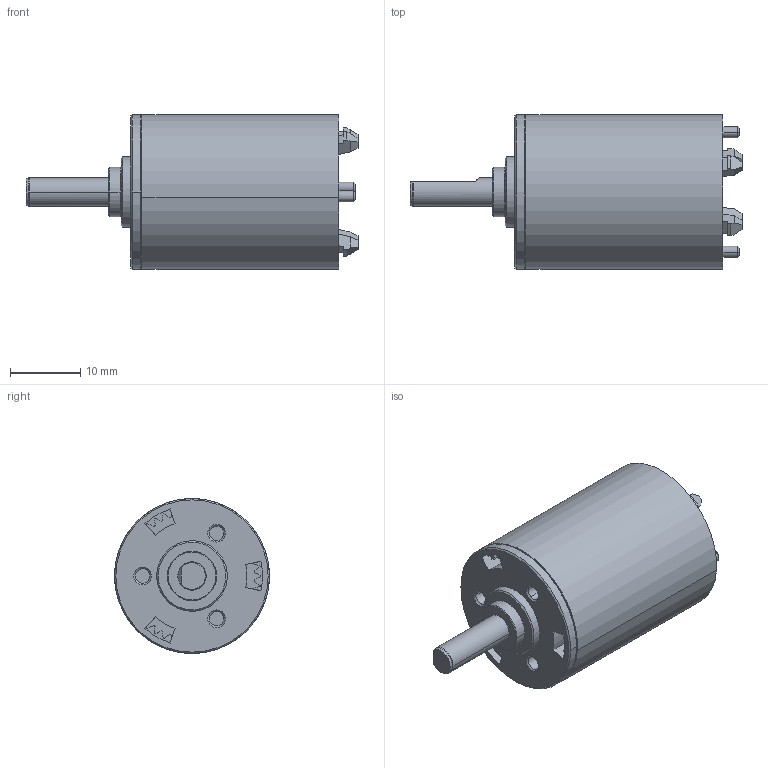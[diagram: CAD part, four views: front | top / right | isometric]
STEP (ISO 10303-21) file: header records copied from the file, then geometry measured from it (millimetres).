
FILE_DESCRIPTION((''),'2;1');
FILE_NAME('GP22L','2016-10-04T',('mmagvisi'),(''),'CREO PARAMETRIC BY PTC INC, 2016050','CREO PARAMETRIC BY PTC INC, 2016050','');
FILE_SCHEMA(('CONFIG_CONTROL_DESIGN'));
Length unit declared in the file: millimetre
Products named in the file (1): GP22L
Bounding box: 47.1 x 22 x 22 mm (x, y, z)
Volume: 11029.6 mm3; surface area: 4120.2 mm2
Topology: 1 solids, 34 shells, 645 faces, 1643 edges, 1082 vertices
Faces by surface type: plane 247, bspline 176, cylinder 136, cone 85, torus 1
Entity records: 27133 total; most frequent: CARTESIAN_POINT 7566, ORIENTED_EDGE 3286, DIRECTION 2532, PRESENTATION_STYLE_ASSIGNMENT 1644, STYLED_ITEM 1644, CURVE_STYLE 1643, EDGE_CURVE 1643, VERTEX_POINT 1082
